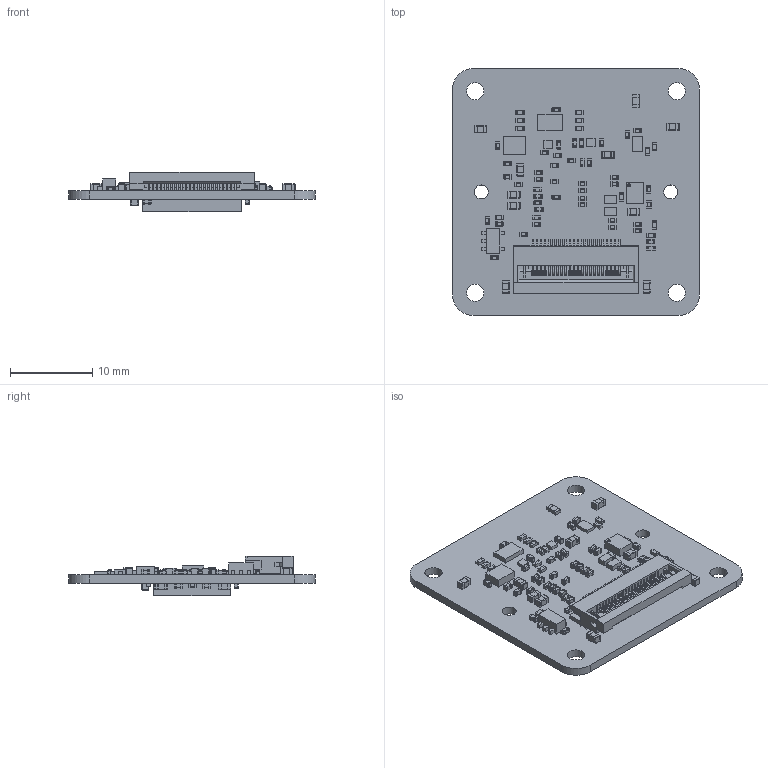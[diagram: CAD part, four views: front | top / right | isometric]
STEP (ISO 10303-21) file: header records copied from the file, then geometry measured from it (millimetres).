
FILE_DESCRIPTION(('Open CASCADE Model'),'2;1');
FILE_NAME('Open CASCADE Shape Model','2024-05-30T14:14:41',('Author'),( 'Open CASCADE'),'Open CASCADE STEP processor 7.5','Open CASCADE 7.5' ,'Unknown');
FILE_SCHEMA(('AUTOMOTIVE_DESIGN { 1 0 10303 214 1 1 1 1 }'));
Length unit declared in the file: millimetre
Products named in the file (150): PCB; Board; Open CASCADE STEP translator 7.5 2.1.1; D1; 6577073088; Extruded; FB7; TIS_0603L_L04_H08; FB6; FB5; FB4; C50; TIS_0603C_L04_H08; C48; C40; TIS_0402C_L025_H05; C39; C38; TIS_0402C_L025_H06; U8; QFN8_CL-2025-02_TOR; R5; TIS_0402R_L02_H04; R23; R22; FB3; TIS_0402L_L02_H06; FB1; C37; C31; C4; U3; 6577067728; U2; 6577072608; R21; R20; R19; C32; C3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
Assembly tree (407 placements, depth 4):
  PCB
    Board
      Open CASCADE STEP translator 7.5 2.1.1
    D1
      6577073088
        Extruded
    FB7
      TIS_0603L_L04_H08
      TIS_0603L_L04_H08
      TIS_0603L_L04_H08
    FB6
      TIS_0603L_L04_H08
      TIS_0603L_L04_H08
      TIS_0603L_L04_H08
    FB5
      TIS_0603L_L04_H08
      TIS_0603L_L04_H08
      TIS_0603L_L04_H08
    FB4
      TIS_0603L_L04_H08
      TIS_0603L_L04_H08
      TIS_0603L_L04_H08
    C50
      TIS_0603C_L04_H08
      TIS_0603C_L04_H08
      TIS_0603C_L04_H08
    C48
      TIS_0603C_L04_H08
      TIS_0603C_L04_H08
      TIS_0603C_L04_H08
    C40
      TIS_0402C_L025_H05
      TIS_0402C_L025_H05
      TIS_0402C_L025_H05
    C39
      TIS_0402C_L025_H05
      TIS_0402C_L025_H05
      TIS_0402C_L025_H05
    C38
      TIS_0402C_L025_H06
      TIS_0402C_L025_H06
      TIS_0402C_L025_H06
    U8
      QFN8_CL-2025-02_TOR
      QFN8_CL-2025-02_TOR
      QFN8_CL-2025-02_TOR
      QFN8_CL-2025-02_TOR
      QFN8_CL-2025-02_TOR
      QFN8_CL-2025-02_TOR
      QFN8_CL-2025-02_TOR
      QFN8_CL-2025-02_TOR
      QFN8_CL-2025-02_TOR
      QFN8_CL-2025-02_TOR
    R5
      TIS_0402R_L02_H04
      TIS_0402R_L02_H04
      TIS_0402R_L02_H04
      TIS_0402R_L02_H04
    R23
      TIS_0402R_L02_H04
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Bounding box: 30.01 x 30 x 4.79 mm (x, y, z)
Volume: 1236 mm3; surface area: 3644 mm2
Topology: 306 solids, 306 shells, 5914 faces, 14147 edges, 8254 vertices
Faces by surface type: plane 2723, cylinder 2198, torus 497, sphere 496
Full cylindrical faces by diameter (mm): 1.7 x2, 2.1 x4
Entity records: 36759 total; most frequent: DIRECTION 5683, CARTESIAN_POINT 5439, ORIENTED_EDGE 5024, EDGE_CURVE 2512, LINE 2005, VECTOR 2005, AXIS2_PLACEMENT_3D 1839, VERTEX_POINT 1588
